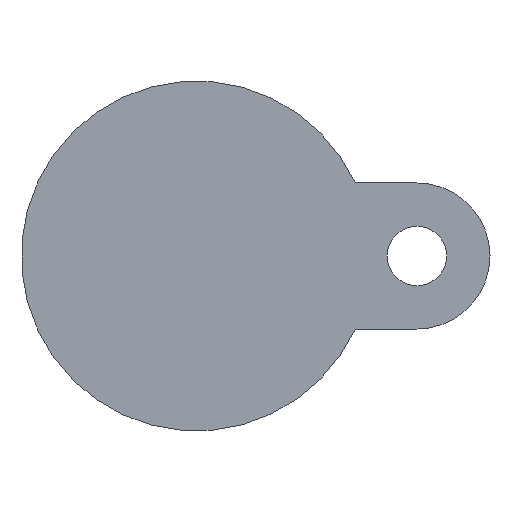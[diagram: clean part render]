
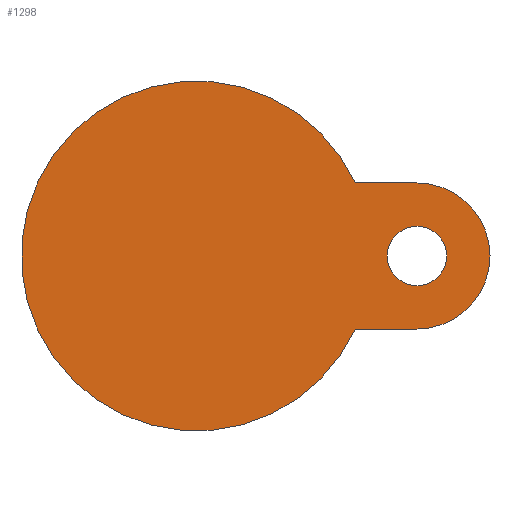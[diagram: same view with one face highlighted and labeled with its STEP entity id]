
A CAD part, front view. The second image highlights one B-rep face of the part: STEP entity #1298.
In plain terms, the highlighted planar face has unit normal (0, -1, 0).
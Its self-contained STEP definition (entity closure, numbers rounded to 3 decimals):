
#91 = EDGE_LOOP ( 'NONE', ( #2684, #3700, #127, #1048 ) ) ;
#127 = ORIENTED_EDGE ( 'NONE', *, *, #273, .F. ) ;
#130 = EDGE_CURVE ( 'NONE', #4415, #2083, #2354, .T. ) ;
#273 = EDGE_CURVE ( 'NONE', #2655, #4415, #1303, .T. ) ;
#281 = VERTEX_POINT ( 'NONE', #2510 ) ;
#297 = AXIS2_PLACEMENT_3D ( 'NONE', #2145, #3894, #1476 ) ;
#321 = CARTESIAN_POINT ( 'NONE',  ( 0., -28., 0. ) ) ;
#526 = DIRECTION ( 'NONE',  ( 1., 0., 0. ) ) ;
#539 = CARTESIAN_POINT ( 'NONE',  ( 56.25, -28., 0. ) ) ;
#680 = DIRECTION ( 'NONE',  ( 1., 0., 0. ) ) ;
#784 = CIRCLE ( 'NONE', #2878, 51.5 ) ;
#853 = CIRCLE ( 'NONE', #3381, 8.75 ) ;
#950 = CARTESIAN_POINT ( 'NONE',  ( 51.5, -28., 0. ) ) ;
#984 = EDGE_CURVE ( 'NONE', #281, #2655, #3242, .T. ) ;
#1048 = ORIENTED_EDGE ( 'NONE', *, *, #984, .F. ) ;
#1070 = EDGE_CURVE ( 'NONE', #1563, #1784, #3961, .T. ) ;
#1298 = ADVANCED_FACE ( 'NONE', ( #2990, #4051 ), #4361, .T. ) ;
#1301 = CARTESIAN_POINT ( 'NONE',  ( 36.5, -28., -21.5 ) ) ;
#1303 = CIRCLE ( 'NONE', #297, 21.5 ) ;
#1313 = DIRECTION ( 'NONE',  ( 0., -1., 0. ) ) ;
#1476 = DIRECTION ( 'NONE',  ( 1., 0., 0. ) ) ;
#1563 = VERTEX_POINT ( 'NONE', #539 ) ;
#1784 = VERTEX_POINT ( 'NONE', #3735 ) ;
#2012 = AXIS2_PLACEMENT_3D ( 'NONE', #3939, #2920, #2898 ) ;
#2068 = ORIENTED_EDGE ( 'NONE', *, *, #1070, .T. ) ;
#2083 = VERTEX_POINT ( 'NONE', #3816 ) ;
#2145 = CARTESIAN_POINT ( 'NONE',  ( 65., -28., 0. ) ) ;
#2148 = VECTOR ( 'NONE', #2903, 1000. ) ;
#2354 = LINE ( 'NONE', #1301, #2966 ) ;
#2368 = CARTESIAN_POINT ( 'NONE',  ( 65., -28., 21.5 ) ) ;
#2445 = EDGE_CURVE ( 'NONE', #281, #2083, #784, .T. ) ;
#2510 = CARTESIAN_POINT ( 'NONE',  ( 46.797, -28., 21.5 ) ) ;
#2655 = VERTEX_POINT ( 'NONE', #2368 ) ;
#2684 = ORIENTED_EDGE ( 'NONE', *, *, #2445, .T. ) ;
#2878 = AXIS2_PLACEMENT_3D ( 'NONE', #321, #3461, #680 ) ;
#2898 = DIRECTION ( 'NONE',  ( -1., 0., 0. ) ) ;
#2903 = DIRECTION ( 'NONE',  ( 1., 0., 0. ) ) ;
#2920 = DIRECTION ( 'NONE',  ( 0., 1., 0. ) ) ;
#2966 = VECTOR ( 'NONE', #4061, 1000. ) ;
#2990 = FACE_BOUND ( 'NONE', #3372, .T. ) ;
#3138 = CARTESIAN_POINT ( 'NONE',  ( 36.5, -28., 21.5 ) ) ;
#3242 = LINE ( 'NONE', #3138, #2148 ) ;
#3372 = EDGE_LOOP ( 'NONE', ( #2068, #3466 ) ) ;
#3381 = AXIS2_PLACEMENT_3D ( 'NONE', #4276, #3645, #4258 ) ;
#3461 = DIRECTION ( 'NONE',  ( 0., -1., 0. ) ) ;
#3466 = ORIENTED_EDGE ( 'NONE', *, *, #4085, .T. ) ;
#3645 = DIRECTION ( 'NONE',  ( 0., 1., 0. ) ) ;
#3700 = ORIENTED_EDGE ( 'NONE', *, *, #130, .F. ) ;
#3735 = CARTESIAN_POINT ( 'NONE',  ( 73.75, -28., 0. ) ) ;
#3816 = CARTESIAN_POINT ( 'NONE',  ( 46.797, -28., -21.5 ) ) ;
#3830 = CARTESIAN_POINT ( 'NONE',  ( 65., -28., -21.5 ) ) ;
#3894 = DIRECTION ( 'NONE',  ( 0., 1., 0. ) ) ;
#3939 = CARTESIAN_POINT ( 'NONE',  ( 65., -28., 0. ) ) ;
#3961 = CIRCLE ( 'NONE', #2012, 8.75 ) ;
#4051 = FACE_OUTER_BOUND ( 'NONE', #91, .T. ) ;
#4061 = DIRECTION ( 'NONE',  ( -1., 0., 0. ) ) ;
#4085 = EDGE_CURVE ( 'NONE', #1784, #1563, #853, .T. ) ;
#4258 = DIRECTION ( 'NONE',  ( -1., 0., 0. ) ) ;
#4276 = CARTESIAN_POINT ( 'NONE',  ( 65., -28., 0. ) ) ;
#4361 = PLANE ( 'NONE',  #4409 ) ;
#4409 = AXIS2_PLACEMENT_3D ( 'NONE', #950, #1313, #526 ) ;
#4415 = VERTEX_POINT ( 'NONE', #3830 ) ;
